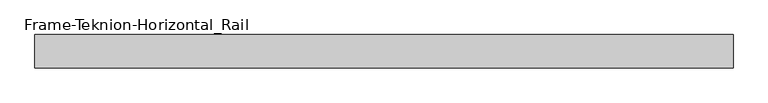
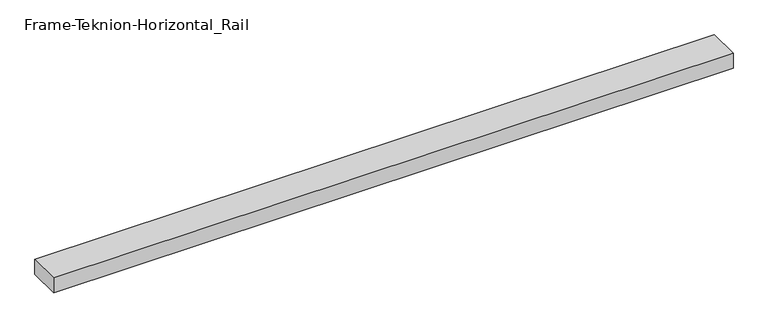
"""IFC4 building model written with IfcOpenShell, lengths in millimetres: proxy geometry, Frame-Teknion-Horizontal_Rail : FPKK."""

from ifc_helpers import new_model, si_unit, frame, origin, place, context, project, spatial, polyline, outline, extrude, source, transform, mapped, element, save


def frame_teknion_horizontal_rail_3334b302(model_context):
    return source(origin(), model_context, "Body", "SweptSolid", [
        extrude(outline(polyline([(-614.0152344, -29.2199219), (-614.0152344, 29.2199219), (614.0152344, 29.2199219), (614.0152344, -29.2199219), (-614.0152344, -29.2199219)])), frame((0.0, 0.0, -13.9898438), z_axis=(0.0, 0.0, 1.0), x_axis=(1.0, 0.0, 0.0)), (0.0, 0.0, 1.0), 27.9796875),
    ])


if __name__ == "__main__":
    model = new_model("IFC4")
    model_context = context("Model", 3, world=origin())
    ifc_project = project(units=[si_unit("LENGTHUNIT", "METRE", prefix="MILLI")], contexts=[model_context])
    site = spatial("IfcSite", under=ifc_project)
    building = spatial("IfcBuilding", under=site)
    placement = place(None, origin())
    frame_teknion_horizontal_rail_shape = frame_teknion_horizontal_rail_3334b302(model_context)
    element("IfcBuildingElementProxy", 1, Name="Frame-Teknion-Horizontal_Rail : FPKK", ObjectType="Frame-Teknion-Horizontal_Rail : FPKK", at=placement, inside=building, context=model_context, shape_type="MappedRepresentation", body=[
        mapped(frame_teknion_horizontal_rail_shape, transform((0.0, 0.0, 0.0), x_axis=(1.0, 0.0, 0.0), y_axis=(0.0, 1.0, 0.0), z_axis=(0.0, 0.0, 1.0))),
    ])
    save(model, "model.ifc")
